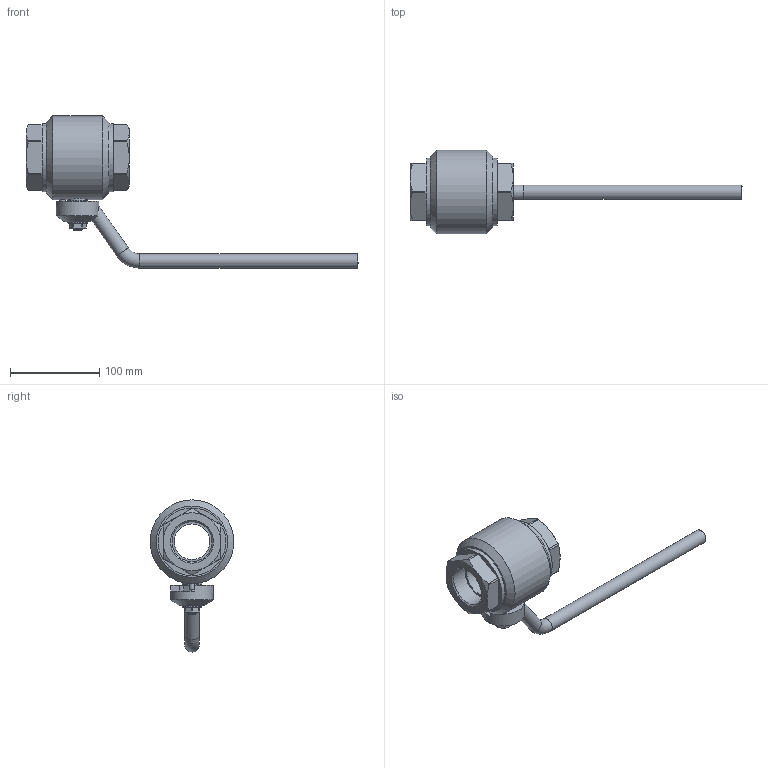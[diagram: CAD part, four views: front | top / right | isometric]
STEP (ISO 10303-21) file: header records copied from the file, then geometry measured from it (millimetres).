
FILE_DESCRIPTION(('STEP AP203'), '1');
FILE_NAME('ZARDP 040.063.10.P.stp', '2013-12-06T07:02:20', ('User'), ('Computer'), 'ASCON STEP Converter 1.3', 'Kompas 3D', '');
FILE_SCHEMA(('CONFIG_CONTROL_DESIGN','SUPPORT_RESOURCE_SCHEMA'));
Length unit declared in the file: millimetre
Products named in the file (1): 114
Bounding box: 373.01 x 94 x 171 mm (x, y, z)
Volume: 502995.6 mm3; surface area: 89358.6 mm2
Topology: 1 solids, 7 shells, 188 faces, 421 edges, 264 vertices
Faces by surface type: plane 89, cylinder 60, cone 31, torus 8
Full cylindrical faces by diameter (mm): 6 x2, 10 x2, 16 x3, 16.1 x1, 21.8 x1, 22 x2, 24.3 x1, 24.5 x1, 40 x2, 44.845 x2, 48 x1, 68.4 x1, 76 x2, 94 x1
Entity records: 6897 total; most frequent: CARTESIAN_POINT 2604, DIRECTION 901, ORIENTED_EDGE 842, EDGE_CURVE 421, AXIS2_PLACEMENT_3D 356, VERTEX_POINT 264, EDGE_LOOP 213, LINE 189
